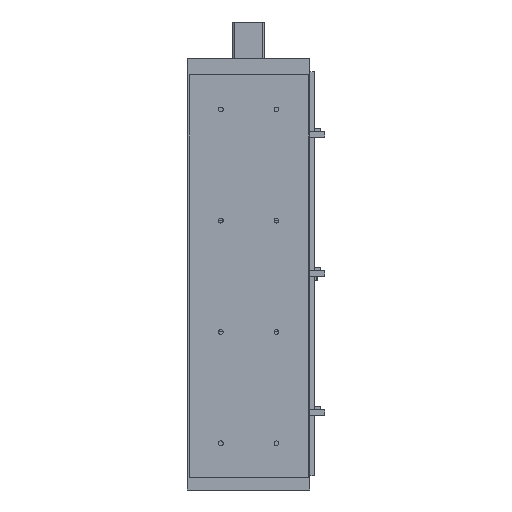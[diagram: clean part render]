
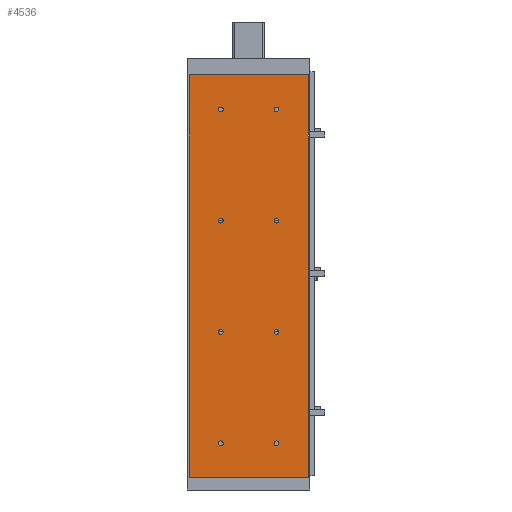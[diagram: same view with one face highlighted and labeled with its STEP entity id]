
A CAD part, front view. The second image highlights one B-rep face of the part: STEP entity #4536.
In plain terms, the highlighted planar face has unit normal (0, -1, 0).
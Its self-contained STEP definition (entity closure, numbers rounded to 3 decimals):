
#3162=CARTESIAN_POINT('',(-107.,0.0,724.0));
#3163=VERTEX_POINT('',#3162);
#3170=CARTESIAN_POINT('',(107.,0.0,724.0));
#3171=VERTEX_POINT('',#3170);
#3172=CARTESIAN_POINT('',(107.,0.0,724.0));
#3173=DIRECTION('',(-1.0,0.0,0.0));
#3174=VECTOR('',#3173,214.);
#3175=LINE('',#3172,#3174);
#3176=EDGE_CURVE('',#3171,#3163,#3175,.T.);
#3506=CARTESIAN_POINT('',(107.,0.0,0.0));
#3507=VERTEX_POINT('',#3506);
#3514=CARTESIAN_POINT('',(-107.,0.0,0.0));
#3515=VERTEX_POINT('',#3514);
#3516=CARTESIAN_POINT('',(-107.,0.0,0.0));
#3517=DIRECTION('',(1.0,0.0,0.0));
#3518=VECTOR('',#3517,214.);
#3519=LINE('',#3516,#3518);
#3520=EDGE_CURVE('',#3515,#3507,#3519,.T.);
#3557=CARTESIAN_POINT('',(-54.249,0.0,662.));
#3558=VERTEX_POINT('',#3557);
#3559=CARTESIAN_POINT('',(-49.999,0.0,662.));
#3560=DIRECTION('',(0.0,1.0,0.0));
#3561=DIRECTION('',(1.0,0.0,0.0));
#3562=AXIS2_PLACEMENT_3D('',#3559,#3560,#3561);
#3563=CIRCLE('',#3562,4.25);
#3564=EDGE_CURVE('',#3558,#3558,#3563,.T.);
#3736=CARTESIAN_POINT('',(45.751,0.0,662.));
#3737=VERTEX_POINT('',#3736);
#3738=CARTESIAN_POINT('',(50.001,0.0,662.));
#3739=DIRECTION('',(0.0,1.0,0.0));
#3740=DIRECTION('',(1.0,0.0,0.0));
#3741=AXIS2_PLACEMENT_3D('',#3738,#3739,#3740);
#3742=CIRCLE('',#3741,4.25);
#3743=EDGE_CURVE('',#3737,#3737,#3742,.T.);
#3777=CARTESIAN_POINT('',(-54.249,0.0,262.));
#3778=VERTEX_POINT('',#3777);
#3779=CARTESIAN_POINT('',(-49.999,0.0,262.));
#3780=DIRECTION('',(0.0,1.0,0.0));
#3781=DIRECTION('',(1.0,0.0,0.0));
#3782=AXIS2_PLACEMENT_3D('',#3779,#3780,#3781);
#3783=CIRCLE('',#3782,4.25);
#3784=EDGE_CURVE('',#3778,#3778,#3783,.T.);
#3956=CARTESIAN_POINT('',(45.751,0.0,262.));
#3957=VERTEX_POINT('',#3956);
#3958=CARTESIAN_POINT('',(50.001,0.0,262.));
#3959=DIRECTION('',(0.0,1.0,0.0));
#3960=DIRECTION('',(1.0,0.0,0.0));
#3961=AXIS2_PLACEMENT_3D('',#3958,#3959,#3960);
#3962=CIRCLE('',#3961,4.25);
#3963=EDGE_CURVE('',#3957,#3957,#3962,.T.);
#3997=CARTESIAN_POINT('',(-54.249,0.0,62.));
#3998=VERTEX_POINT('',#3997);
#3999=CARTESIAN_POINT('',(-49.999,0.0,62.));
#4000=DIRECTION('',(0.0,1.0,0.0));
#4001=DIRECTION('',(1.0,0.0,0.0));
#4002=AXIS2_PLACEMENT_3D('',#3999,#4000,#4001);
#4003=CIRCLE('',#4002,4.25);
#4004=EDGE_CURVE('',#3998,#3998,#4003,.T.);
#4176=CARTESIAN_POINT('',(45.751,0.0,62.));
#4177=VERTEX_POINT('',#4176);
#4178=CARTESIAN_POINT('',(50.001,0.0,62.));
#4179=DIRECTION('',(0.0,1.0,0.0));
#4180=DIRECTION('',(1.0,0.0,0.0));
#4181=AXIS2_PLACEMENT_3D('',#4178,#4179,#4180);
#4182=CIRCLE('',#4181,4.25);
#4183=EDGE_CURVE('',#4177,#4177,#4182,.T.);
#4286=CARTESIAN_POINT('',(45.751,0.0,462.));
#4287=VERTEX_POINT('',#4286);
#4288=CARTESIAN_POINT('',(50.001,0.0,462.));
#4289=DIRECTION('',(0.0,1.0,0.0));
#4290=DIRECTION('',(1.0,0.0,0.0));
#4291=AXIS2_PLACEMENT_3D('',#4288,#4289,#4290);
#4292=CIRCLE('',#4291,4.25);
#4293=EDGE_CURVE('',#4287,#4287,#4292,.T.);
#4396=CARTESIAN_POINT('',(-54.249,0.0,462.));
#4397=VERTEX_POINT('',#4396);
#4398=CARTESIAN_POINT('',(-49.999,0.0,462.));
#4399=DIRECTION('',(0.0,1.0,0.0));
#4400=DIRECTION('',(1.0,0.0,0.0));
#4401=AXIS2_PLACEMENT_3D('',#4398,#4399,#4400);
#4402=CIRCLE('',#4401,4.25);
#4403=EDGE_CURVE('',#4397,#4397,#4402,.T.);
#4423=CARTESIAN_POINT('',(107.,0.0,0.0));
#4424=DIRECTION('',(0.0,0.0,1.0));
#4425=VECTOR('',#4424,724.0);
#4426=LINE('',#4423,#4425);
#4427=EDGE_CURVE('',#3507,#3171,#4426,.T.);
#4445=CARTESIAN_POINT('',(-107.,0.0,0.0));
#4446=DIRECTION('',(0.0,0.0,1.0));
#4447=VECTOR('',#4446,724.0);
#4448=LINE('',#4445,#4447);
#4449=EDGE_CURVE('',#3515,#3163,#4448,.T.);
#4501=CARTESIAN_POINT('',(107.,0.0,0.0));
#4502=DIRECTION('',(0.0,-1.0,0.0));
#4503=DIRECTION('',(0.0,0.0,-1.0));
#4504=AXIS2_PLACEMENT_3D('',#4501,#4502,#4503);
#4505=PLANE('',#4504);
#4506=ORIENTED_EDGE('',*,*,#3176,.T.);
#4507=ORIENTED_EDGE('',*,*,#4449,.F.);
#4508=ORIENTED_EDGE('',*,*,#3520,.T.);
#4509=ORIENTED_EDGE('',*,*,#4427,.T.);
#4510=EDGE_LOOP('',(#4506,#4507,#4508,#4509));
#4511=FACE_OUTER_BOUND('',#4510,.T.);
#4512=ORIENTED_EDGE('',*,*,#3564,.T.);
#4513=EDGE_LOOP('',(#4512));
#4514=FACE_BOUND('',#4513,.T.);
#4515=ORIENTED_EDGE('',*,*,#3743,.T.);
#4516=EDGE_LOOP('',(#4515));
#4517=FACE_BOUND('',#4516,.T.);
#4518=ORIENTED_EDGE('',*,*,#3784,.T.);
#4519=EDGE_LOOP('',(#4518));
#4520=FACE_BOUND('',#4519,.T.);
#4521=ORIENTED_EDGE('',*,*,#3963,.T.);
#4522=EDGE_LOOP('',(#4521));
#4523=FACE_BOUND('',#4522,.T.);
#4524=ORIENTED_EDGE('',*,*,#4004,.T.);
#4525=EDGE_LOOP('',(#4524));
#4526=FACE_BOUND('',#4525,.T.);
#4527=ORIENTED_EDGE('',*,*,#4183,.T.);
#4528=EDGE_LOOP('',(#4527));
#4529=FACE_BOUND('',#4528,.T.);
#4530=ORIENTED_EDGE('',*,*,#4293,.T.);
#4531=EDGE_LOOP('',(#4530));
#4532=FACE_BOUND('',#4531,.T.);
#4533=ORIENTED_EDGE('',*,*,#4403,.T.);
#4534=EDGE_LOOP('',(#4533));
#4535=FACE_BOUND('',#4534,.T.);
#4536=ADVANCED_FACE('',(#4511,#4514,#4517,#4520,#4523,#4526,#4529,#4532,#4535),#4505,.T.);
